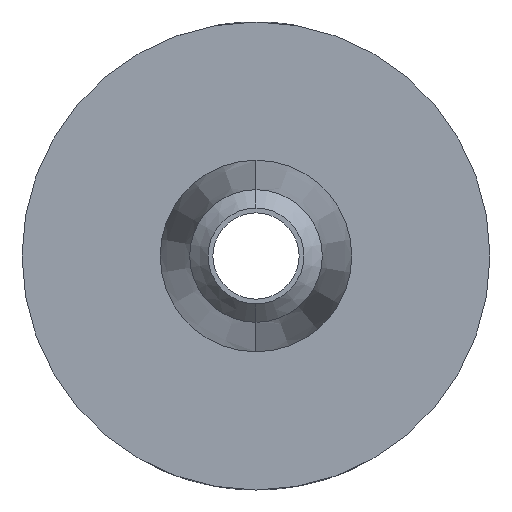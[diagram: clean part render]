
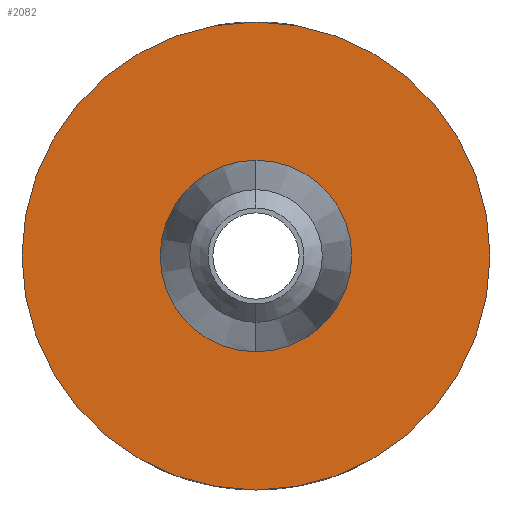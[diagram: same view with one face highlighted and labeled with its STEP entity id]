
A CAD part, left-side view. The second image highlights one B-rep face of the part: STEP entity #2082.
In plain terms, the highlighted planar face has unit normal (1, 0, 0).
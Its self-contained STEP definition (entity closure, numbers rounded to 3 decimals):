
#39=PLANE('',#2377);
#58=FACE_BOUND('',#275,.T.);
#123=CIRCLE('',#2378,3.175);
#124=CIRCLE('',#2379,1.3);
#193=FACE_OUTER_BOUND('',#274,.T.);
#274=EDGE_LOOP('',(#1703));
#275=EDGE_LOOP('',(#1704));
#941=VERTEX_POINT('',#3917);
#942=VERTEX_POINT('',#3919);
#1322=EDGE_CURVE('',#941,#941,#123,.T.);
#1323=EDGE_CURVE('',#942,#942,#124,.T.);
#1703=ORIENTED_EDGE('',*,*,#1322,.T.);
#1704=ORIENTED_EDGE('',*,*,#1323,.T.);
#2082=ADVANCED_FACE('',(#193,#58),#39,.T.);
#2377=AXIS2_PLACEMENT_3D('',#3916,#2635,#2636);
#2378=AXIS2_PLACEMENT_3D('',#3918,#2637,#2638);
#2379=AXIS2_PLACEMENT_3D('',#3920,#2639,#2640);
#2635=DIRECTION('center_axis',(1.,0.,0.));
#2636=DIRECTION('ref_axis',(0.,0.,-1.));
#2637=DIRECTION('center_axis',(1.,0.,0.));
#2638=DIRECTION('ref_axis',(0.,0.,-1.));
#2639=DIRECTION('center_axis',(-1.,0.,0.));
#2640=DIRECTION('ref_axis',(0.,0.,
-1.));
#3916=CARTESIAN_POINT('Origin',(-4.75,-3.213,0.));
#3917=CARTESIAN_POINT('',(-4.75,0.,3.175));
#3918=CARTESIAN_POINT('Origin',(-4.75,0.,0.));
#3919=CARTESIAN_POINT('',(-4.75,0.,1.3));
#3920=CARTESIAN_POINT('Origin',(-4.75,0.,0.));
